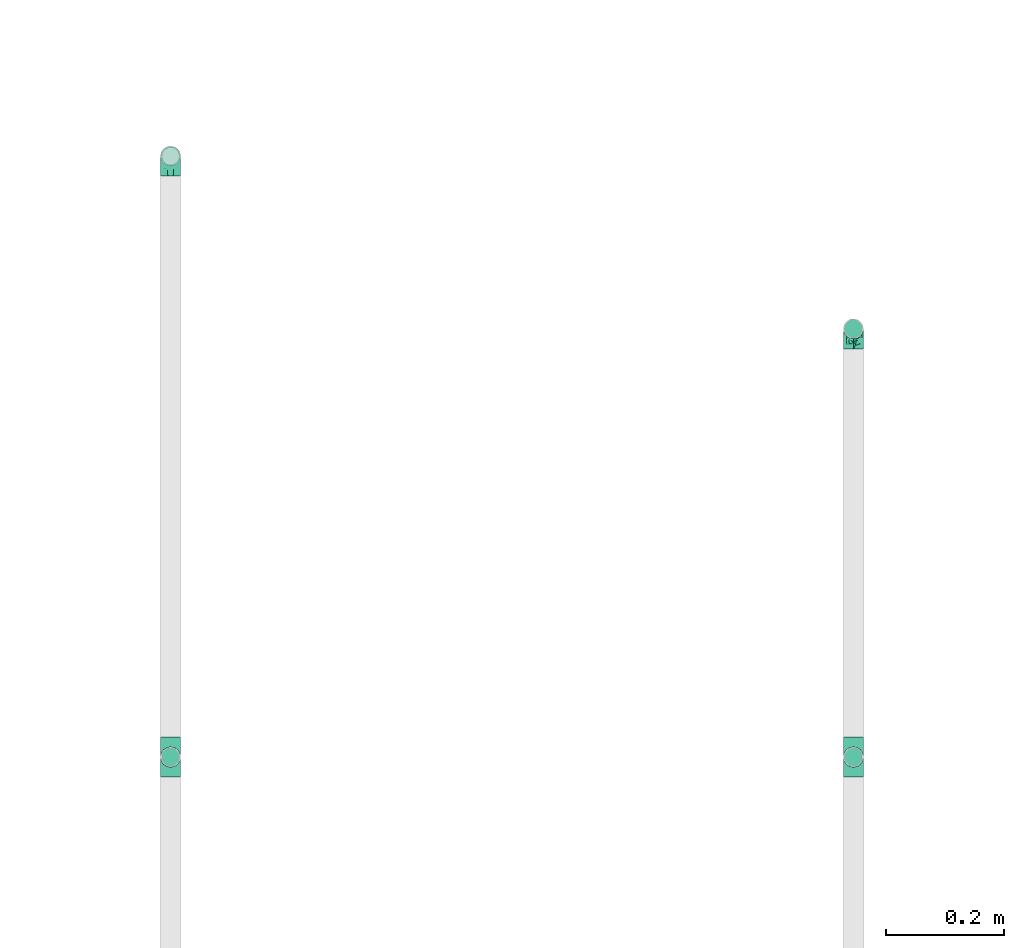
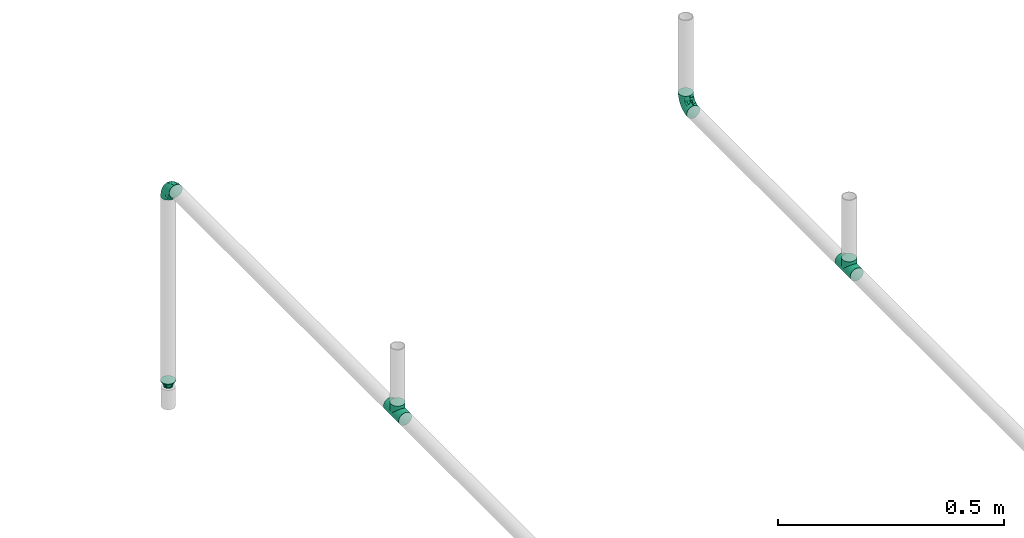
# One storey, part 53 of 95: 5 flow fittings.
"""IFC2X3 building model written with IfcOpenShell, lengths in millimetres."""

from ifc_helpers import new_model, entity, si_unit, converted_unit, derived_unit, direction, frame, origin_with_axes, place, context, subcontext, project, spatial, open_shell, surface_model, source, transform, mapped, type_object, element, save


model = new_model("IFC2X3")

# Units and contexts
model_context = context("Model", 3, precision=0.01, world=frame((0.0, 4.29681676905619e-09, 0.0)), true_north=direction((4.01073788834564e-13, 1.0)))
plan_context = context("Plan", 3, precision=0.01, world=frame((0.0, 4.29681676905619e-09, 0.0)), true_north=direction((4.01073788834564e-13, 1.0)))
body_context = subcontext(model_context, "Body", "Model", "MODEL_VIEW")
ifc_project = project(units=[converted_unit("PLANEANGLEUNIT", "DEGREE", entity("IfcPositiveLengthMeasure", 0.0174532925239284), si_unit("PLANEANGLEUNIT", "RADIAN"), dimensions=[0, 0, 0, 0, 0, 0, 0]), si_unit("AREAUNIT", "SQUARE_METRE"), si_unit("LENGTHUNIT", "METRE", prefix="MILLI"), si_unit("MASSUNIT", "GRAM", prefix="KILO"), si_unit("POWERUNIT", "WATT"), si_unit("PRESSUREUNIT", "PASCAL"), si_unit("FORCEUNIT", "NEWTON", prefix="KILO"), si_unit("ELECTRICVOLTAGEUNIT", "VOLT"), si_unit("ELECTRICCURRENTUNIT", "AMPERE"), si_unit("THERMODYNAMICTEMPERATUREUNIT", "DEGREE_CELSIUS"), si_unit("TIMEUNIT", "SECOND"), si_unit("VOLUMEUNIT", "CUBIC_METRE"), derived_unit("LINEARVELOCITYUNIT", [(si_unit("LENGTHUNIT", "METRE"), 1), (si_unit("TIMEUNIT", "SECOND"), -1)]), derived_unit("VOLUMETRICFLOWRATEUNIT", [(si_unit("VOLUMEUNIT", "CUBIC_METRE"), 1), (si_unit("TIMEUNIT", "SECOND"), -1)]), derived_unit("THERMALTRANSMITTANCEUNIT", [(si_unit("POWERUNIT", "WATT"), 1), (si_unit("THERMODYNAMICTEMPERATUREUNIT", "KELVIN"), -1), (si_unit("AREAUNIT", "SQUARE_METRE"), -1)]), derived_unit("SOUNDPRESSUREUNIT", [(si_unit("PRESSUREUNIT", "PASCAL"), 1)])], contexts=[model_context, plan_context])

# Site, building, storey
site_placement = place(None, frame((0.0, -4.29681676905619e-09, 0.0), z_axis=(0.0, 0.0, 1.0), x_axis=(1.0, 0.0, 0.0)))
site = spatial("IfcSite", under=ifc_project, at=site_placement, CompositionType="ELEMENT")
building_placement = place(site_placement, frame((0.0, 4.29681676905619e-09, 0.0), z_axis=(0.0, 0.0, 1.0), x_axis=(1.0, 0.0, 0.0)))
building = spatial("IfcBuilding", under=site, at=building_placement, Name="mc-building", CompositionType="ELEMENT")
storey_placement = place(building_placement, frame((0.0, 0.0, 210900.0), z_axis=(0.0, 0.0, 1.0), x_axis=(1.0, 0.0, 0.0)))
storey = spatial("IfcBuildingStorey", under=building, at=storey_placement, Name="Nivå F", CompositionType="ELEMENT", Elevation=210900.0)

# Flow fittings
pipe_fitting_type_1 = type_object("IfcPipeFittingType", Name="magi_pipe_fe_reducer_centric_short_NOR", PredefinedType="TRANSITION")
shared_shape_1 = source(origin_with_axes(), body_context, "Body", "SurfaceModel", [
    surface_model("IfcShellBasedSurfaceModel", [(-2.0, -7.56604, -7.56604), (-2.0, -10.33541, -2.76936), (-2.0, -5.35, -9.26647), (-2.0, 5.35, -9.26647), (-2.0, 10.33541, -2.76936), (-2.0, 7.56604, -7.56604), (12.4, 11.9501, 11.9501), (12.4, 0.0, 16.9), (12.4, 11.9501, -11.9501), (12.4, 16.9, 0.0), (0.0, -10.7, 0.0), (0.0, -5.35, 9.26647), (0.0, -5.35, -9.26647), (0.0, 10.7, 0.0), (12.4, 15.66253, -2.98753), (12.4, 8.96258, -13.18758), (0.0, 6.6875, -6.94985), (12.4, -15.66253, -2.98753), (12.4, -16.9, 0.0), (12.4, 5.97505, -14.42505), (0.0, 5.35, -9.26647), (12.4, 14.42505, -5.97505), (0.0, 8.025, -4.63324), (0.0, 9.3625, -2.31662), (0.0, -9.3625, -2.31662), (0.0, -8.025, -4.63324), (12.4, -14.42505, -5.97505), (12.4, 13.18758, -8.96258), (12.4, -13.18758, -8.96258), (12.4, -11.9501, -11.9501), (0.0, -6.6875, -6.94985), (12.4, -8.96258, -13.18758), (12.4, -5.97505, -14.42505), (12.4, -15.66253, 2.98753), (12.4, -8.96258, 13.18758), (0.0, -6.6875, 6.94985), (12.4, -11.9501, 11.9501), (12.4, 15.66253, 2.98753), (12.4, -5.97505, 14.42505), (12.4, -14.42505, 5.97505), (0.0, -8.025, 4.63324), (0.0, -9.3625, 2.31662), (0.0, 9.3625, 2.31662), (0.0, 8.025, 4.63324), (12.4, 14.42505, 5.97505), (12.4, -13.18758, 8.96258), (12.4, 13.18758, 8.96258), (0.0, 6.6875, 6.94985), (12.4, 8.96258, 13.18758), (0.0, 5.35, 9.26647), (12.4, 5.97505, 14.42505), (14.4, 4.37404, -16.32415), (14.4, 8.45, -14.63583), (14.4, 11.9501, -11.9501), (14.4, -8.45, -14.63583), (14.4, 16.32415, -4.37404), (14.4, 16.32415, 4.37404), (14.4, 14.63583, -8.45), (14.4, 0.0, -16.9), (14.4, -4.37404, -16.32415), (14.4, -11.9501, -11.9501), (14.4, -16.32415, -4.37404), (14.4, -14.63583, -8.45), (14.4, -16.32415, 4.37404), (14.4, 16.9, 0.0), (14.4, 14.63583, 8.45), (14.4, 11.9501, 11.9501), (14.4, 4.37404, 16.32415), (14.4, 8.45, 14.63583), (14.4, 0.0, 16.9), (14.4, -14.63583, 8.45), (14.4, -16.9, 0.0), (14.4, -8.45, 14.63583), (14.4, -11.9501, 11.9501), (14.4, -4.37404, 16.32415), (12.4, 4.37404, 16.32415), (12.4, -14.63583, 8.45), (12.4, 16.32415, 4.37404), (12.4, 8.45, 14.63583), (12.4, 14.63583, 8.45), (12.4, -8.45, 14.63583), (12.4, -4.37404, 16.32415), (12.4, -16.32415, 4.37404), (12.4, -16.32415, -4.37404), (12.4, -8.45, -14.63583), (12.4, 16.32415, -4.37404), (12.4, 14.63583, -8.45), (12.4, 8.45, -14.63583), (12.4, 4.37404, -16.32415), (12.4, 0.0, -16.9), (12.4, -14.63583, -8.45), (12.4, -4.37404, -16.32415), (-2.0, 2.76936, 10.33541), (-2.0, 0.0, 10.7), (-2.0, 5.35, 9.26647), (-2.0, 7.56604, 7.56604), (-2.0, 9.26647, 5.35), (-2.0, 10.33541, 2.76936), (-2.0, -10.33541, 2.76936), (-2.0, -2.76936, 10.33541), (-2.0, -7.56604, 7.56604), (-2.0, -5.35, 9.26647), (-2.0, -9.26647, 5.35), (-2.0, -10.7, 0.0), (-2.0, 9.26647, -5.35), (-2.0, 2.76936, -10.33541), (-2.0, -9.26647, -5.35), (-2.0, 0.0, -10.7), (-2.0, -2.76936, -10.33541), (-2.0, 10.7, 0.0), (0.0, 0.0, -10.7), (0.0, 2.76936, -10.33541), (0.0, 10.33541, -2.76936), (0.0, 7.56604, -7.56604), (0.0, -10.33541, -2.76936), (0.0, 9.26647, -5.35), (0.0, 0.0, 10.7), (0.0, -2.76936, -10.33541), (0.0, -7.56604, -7.56604), (0.0, -9.26647, -5.35), (0.0, 10.33541, 2.76936), (0.0, 9.26647, 5.35), (0.0, 7.56604, 7.56604), (0.0, 2.76936, 10.33541), (0.0, -7.56604, 7.56604), (0.0, -10.33541, 2.76936), (0.0, -9.26647, 5.35), (0.0, -2.76936, 10.33541), (0.0, 2.675, -9.26647), (0.0, -2.675, -9.26647), (12.4, 2.98753, -15.66253), (0.0, 0.0, -9.26647), (12.4, -2.98753, -15.66253), (0.0, -2.675, 9.26647), (0.0, 2.675, 9.26647), (12.4, -2.98753, 15.66253), (0.0, 0.0, 9.26647), (12.4, 2.98753, 15.66253)], [open_shell([[[0, 1, 2]], [[3, 4, 5]], [[6, 7, 8]], [[8, 9, 6]], [[10, 11, 12]], [[13, 9, 14]], [[15, 16, 8]], [[17, 18, 10]], [[15, 19, 20]], [[21, 22, 23]], [[24, 25, 26]], [[22, 21, 27]], [[28, 26, 25]], [[29, 30, 31]], [[12, 32, 31]], [[10, 18, 33]], [[34, 35, 36]], [[37, 9, 13]], [[34, 38, 11]], [[39, 40, 41]], [[42, 43, 44]], [[40, 39, 45]], [[46, 44, 43]], [[6, 47, 48]], [[49, 50, 48]], [[51, 52, 53]], [[54, 51, 53]], [[53, 55, 56]], [[55, 53, 57]], [[53, 56, 54]], [[58, 54, 59]], [[58, 51, 54]], [[60, 61, 62]], [[61, 60, 54]], [[54, 63, 61]], [[56, 55, 64]], [[56, 65, 66]], [[56, 66, 67]], [[67, 63, 54]], [[67, 66, 68]], [[63, 67, 69]], [[69, 70, 63]], [[71, 61, 63]], [[70, 72, 73]], [[70, 69, 72]], [[72, 69, 74]], [[54, 56, 67]], [[75, 76, 7]], [[77, 75, 78]], [[6, 79, 77]], [[6, 77, 78]], [[76, 75, 77]], [[80, 76, 36]], [[80, 81, 7]], [[7, 76, 80]], [[82, 76, 77]], [[82, 83, 18]], [[82, 77, 84]], [[77, 85, 8]], [[8, 85, 86]], [[8, 87, 88]], [[84, 77, 8]], [[88, 89, 8]], [[83, 29, 90]], [[29, 83, 84]], [[84, 89, 91]], [[83, 82, 84]], [[8, 89, 84]], [[85, 77, 9]], [[83, 61, 18]], [[90, 62, 83]], [[54, 29, 84]], [[90, 29, 60]], [[59, 84, 91]], [[83, 62, 61]], [[61, 71, 18]], [[59, 54, 84]], [[60, 29, 54]], [[60, 62, 90]], [[58, 59, 91]], [[91, 89, 58]], [[88, 51, 89]], [[87, 52, 88]], [[57, 8, 86]], [[87, 8, 53]], [[55, 86, 85]], [[87, 53, 52]], [[52, 51, 88]], [[64, 55, 85]], [[57, 86, 55]], [[57, 53, 8]], [[9, 64, 85]], [[89, 51, 58]], [[77, 56, 9]], [[79, 65, 77]], [[68, 6, 78]], [[79, 6, 66]], [[67, 78, 75]], [[77, 65, 56]], [[56, 64, 9]], [[67, 68, 78]], [[66, 6, 68]], [[66, 65, 79]], [[69, 67, 75]], [[75, 7, 69]], [[81, 74, 7]], [[80, 72, 81]], [[70, 36, 76]], [[80, 36, 73]], [[63, 76, 82]], [[80, 73, 72]], [[72, 74, 81]], [[71, 63, 82]], [[70, 76, 63]], [[70, 73, 36]], [[18, 71, 82]], [[7, 74, 69]], [[92, 1, 93]], [[94, 1, 92]], [[95, 96, 97]], [[95, 97, 94]], [[98, 93, 1]], [[99, 100, 101]], [[99, 93, 100]], [[100, 98, 102]], [[93, 98, 100]], [[98, 1, 103]], [[94, 97, 1]], [[1, 97, 4]], [[5, 4, 104]], [[4, 3, 1]], [[105, 1, 3]], [[1, 0, 106]], [[2, 107, 108]], [[2, 1, 105]], [[105, 107, 2]], [[4, 97, 109]], [[20, 110, 111]], [[112, 20, 113]], [[114, 20, 112]], [[112, 113, 115]], [[116, 114, 112]], [[110, 12, 117]], [[110, 20, 12]], [[118, 114, 119]], [[114, 118, 12]], [[20, 114, 12]], [[112, 13, 120]], [[120, 121, 122]], [[120, 122, 123]], [[116, 112, 123]], [[123, 122, 49]], [[116, 124, 114]], [[125, 124, 126]], [[10, 114, 125]], [[124, 127, 11]], [[125, 114, 124]], [[127, 124, 116]], [[123, 112, 120]], [[1, 114, 103]], [[106, 119, 1]], [[12, 0, 2]], [[106, 0, 118]], [[117, 2, 108]], [[1, 119, 114]], [[114, 10, 103]], [[117, 12, 2]], [[118, 0, 12]], [[118, 119, 106]], [[110, 117, 108]], [[108, 107, 110]], [[105, 111, 107]], [[3, 20, 105]], [[115, 5, 104]], [[3, 5, 113]], [[112, 104, 4]], [[3, 113, 20]], [[20, 111, 105]], [[13, 112, 4]], [[115, 104, 112]], [[115, 113, 5]], [[109, 13, 4]], [[107, 111, 110]], [[97, 120, 109]], [[96, 121, 97]], [[49, 95, 94]], [[96, 95, 122]], [[123, 94, 92]], [[97, 121, 120]], [[120, 13, 109]], [[123, 49, 94]], [[122, 95, 49]], [[122, 121, 96]], [[116, 123, 92]], [[92, 93, 116]], [[99, 127, 93]], [[101, 11, 99]], [[126, 100, 102]], [[101, 100, 124]], [[125, 102, 98]], [[101, 124, 11]], [[11, 127, 99]], [[10, 125, 98]], [[126, 102, 125]], [[126, 124, 100]], [[103, 10, 98]], [[93, 127, 116]], [[18, 7, 36]], [[18, 29, 8]], [[89, 8, 29]], [[18, 8, 7]], [[13, 11, 49]], [[13, 20, 12]], [[13, 12, 11]], [[24, 26, 17]], [[10, 24, 17]], [[16, 15, 20]], [[30, 12, 31]], [[23, 14, 21]], [[19, 128, 20]], [[27, 8, 16]], [[32, 12, 129]], [[30, 28, 25]], [[130, 131, 128]], [[129, 132, 32]], [[16, 22, 27]], [[13, 14, 23]], [[128, 19, 130]], [[130, 89, 131]], [[131, 132, 129]], [[89, 132, 131]], [[28, 30, 29]], [[42, 44, 37]], [[13, 42, 37]], [[35, 34, 11]], [[47, 49, 48]], [[41, 33, 39]], [[38, 133, 11]], [[45, 36, 35]], [[50, 49, 134]], [[47, 46, 43]], [[135, 136, 133]], [[134, 137, 50]], [[35, 40, 45]], [[10, 33, 41]], [[133, 38, 135]], [[135, 7, 136]], [[136, 137, 134]], [[7, 137, 136]], [[46, 47, 6]]])]),
])
flow_fitting_placement = place(storey_placement, frame((529898.68266, 447207.85, 3762.948), z_axis=(-1.0, 0.0, 0.0), x_axis=(0.0, 0.0, 1.0)))
element("IfcFlowFitting", 1, at=flow_fitting_placement, inside=storey, type_object=pipe_fitting_type_1, Name="magi_pipe_fe_reducer_centric_short_NOR", context=body_context, shape_type="MappedRepresentation", body=[
    mapped(shared_shape_1, transform((0.0, 0.0, 0.0), scale=1.0)),
])
pipe_fitting_type_2 = type_object("IfcPipeFittingType", Name="magi_pipe_fe_elbow_short_001", PredefinedType="BEND")
shared_shape_2 = source(origin_with_axes(), body_context, "Body", "SurfaceModel", [
    surface_model("IfcShellBasedSurfaceModel", [(-33.8, 8.45, -14.63583), (-33.8, 4.37404, -16.32415), (-33.8, 11.9501, -11.9501), (-33.8, -11.9501, -11.9501), (-33.8, -14.63583, -8.45), (-33.8, -8.45, -14.63583), (-33.8, 0.0, -16.9), (-33.8, -4.37404, -16.32415), (-33.8, -4.37404, 16.32415), (-33.8, 0.0, 16.9), (-33.8, -8.45, 14.63583), (-33.8, 16.32415, -4.37404), (-33.8, 14.63583, -8.45), (-33.8, -16.32415, -4.37404), (-33.8, -16.9, 0.0), (-33.8, -16.32415, 4.37404), (-33.8, 11.9501, 11.9501), (-33.8, 14.63583, 8.45), (-33.8, 16.32415, 4.37404), (-33.8, 4.37404, 16.32415), (-33.8, 8.45, 14.63583), (-33.8, -14.63583, 8.45), (-33.8, -11.9501, 11.9501), (-33.8, 16.9, 0.0), (-11.9501, 33.8, -11.9501), (0.0, 33.8, -16.9), (-4.37404, 33.8, -16.32415), (-8.45, 33.8, -14.63583), (-14.63583, 33.8, -8.45), (-16.32415, 33.8, -4.37404), (14.63583, 33.8, -8.45), (8.45, 33.8, 14.63583), (16.32415, 33.8, -4.37404), (8.45, 33.8, -14.63583), (11.9501, 33.8, -11.9501), (4.37404, 33.8, -16.32415), (16.32415, 33.8, 4.37404), (16.9, 33.8, 0.0), (-11.9501, 33.8, 11.9501), (-16.32415, 33.8, 4.37404), (-14.63583, 33.8, 8.45), (-8.45, 33.8, 14.63583), (-4.37404, 33.8, 16.32415), (11.9501, 33.8, 11.9501), (14.63583, 33.8, 8.45), (0.0, 33.8, 16.9), (4.37404, 33.8, 16.32415), (-16.9, 33.8, 0.0), (-24.79389, -13.12945, 9.48721), (-22.19287, -9.75018, 12.59315), (-24.09897, -14.97035, 0.0), (-14.93934, -10.76256, 8.5297), (-22.46095, -14.75051, 5.27077), (14.75051, 22.46094, 5.27077), (11.9251, 13.23888, 4.33236), (13.04069, 14.39795, 0.0), (7.71387, 13.68847, 11.55891), (9.75018, 22.19287, 12.59315), (4.10169, 13.0571, 14.04018), (-24.84007, -6.39063, 15.2048), (-25.81779, -2.23879, 16.61097), (-23.66549, 2.59054, 16.87119), (-26.50418, 14.06512, 11.08152), (-24.21253, 17.66365, 7.72657), (-29.58514, 15.86957, 7.00283), (-6.17382, -7.5455, 0.0), (-13.23888, -11.9251, 4.33236), (-14.39795, -13.04069, 0.0), (-17.81434, 18.87373, 11.97104), (-6.30846, 29.15138, 15.82987), (-2.31622, 25.28002, 16.85849), (-29.23923, 10.23435, 13.77053), (-1.45439, -2.85688, 7.61475), (-0.28326, 0.34872, 10.09509), (-5.74484, -4.04709, 10.4122), (-4.41137, 11.31918, 16.59407), (-8.39727, 3.10034, 15.7812), (-1.72649, 9.1306, 15.53089), (-17.39909, 24.75344, 7.64977), (-26.19233, 20.0512, 0.0), (-28.14518, 17.29657, 4.25857), (-26.05147, 6.6281, 15.96447), (-5.87354, 16.61944, 16.86968), (-12.51807, 12.51807, 16.48937), (-10.06312, 7.38516, 16.81295), (-3.01882, 3.01882, 13.81718), (-13.0571, -4.10169, 14.04018), (-16.82553, -0.15166, 16.38038), (10.76256, 14.93934, 8.5297), (13.12945, 24.79389, 9.48721), (6.39063, 24.84007, 15.2048), (2.23879, 25.81779, 16.61097), (-13.68847, -7.71387, 11.55891), (14.97035, 24.09897, 0.0), (-7.30894, 22.89991, 16.09489), (-10.67958, 26.17414, 14.008), (-12.78295, 18.26924, 15.06066), (-13.88562, 22.45231, 12.93244), (-18.04944, 15.16501, 14.04434), (-23.11658, 20.08178, 4.02986), (-21.84989, 21.84989, 0.0), (-18.55817, 25.48277, 3.93065), (-13.95142, 26.94732, 11.03289), (-18.57098, 7.23906, 16.59756), (-16.58335, 4.14122, 16.89279), (-17.96666, 11.46709, 15.63151), (-9.84453, 17.54304, 16.18938), (0.15166, 16.82553, 16.38038), (-23.27207, 11.47201, 14.23154), (3.84842, 5.86994, 10.70473), (-8.0212, -7.54413, 7.93275), (1.00345, -2.19508, 4.57414), (5.13203, 3.01004, 5.90201), (5.24161, 1.7543, 2.53265), (8.70457, 7.04947, 3.99182), (-20.0512, 26.19233, 0.0), (8.4852, 8.76699, 7.09296), (-4.55488, -6.72064, 4.90681), (2.05031, -2.05031, 0.0), (7.5455, 6.17382, 0.0), (-26.75399, 2.1369, -16.845), (-14.61995, 24.73803, -11.27736), (-28.45274, -13.45335, -9.81895), (-26.00469, 6.63555, -15.96645), (-23.06726, 20.04573, -4.26202), (-13.80647, -4.26506, -14.17873), (-14.67501, -0.21081, -16.07388), (-6.7902, -0.2828, -13.8478), (-24.53586, 11.08096, -14.13417), (-26.72048, 14.00837, -11.05776), (10.0967, 24.44989, -12.75976), (5.83237, 21.40218, -15.03047), (6.66249, 28.54238, -15.38093), (-20.38182, 15.48705, -12.74596), (12.53268, 21.23441, -9.15363), (12.54494, 15.67504, -5.54878), (9.7522, 12.89279, -8.66343), (-15.65186, 19.64213, -13.01327), (-12.03528, 20.66498, -14.67665), (-15.61907, 15.61906, -14.83879), (-25.56551, -15.26206, 0.0), (-24.65452, -15.12934, -5.50955), (13.45335, 28.45274, -9.81895), (15.12934, 24.65452, -5.50955), (-7.35442, -8.31014, -5.65563), (-15.67504, -12.54494, -5.54878), (-24.44989, -10.0967, -12.75976), (0.16522, 0.41303, -9.71728), (-5.70658, -5.33066, -8.89288), (-5.13869, -2.37198, -11.53565), (-21.23441, -12.53268, -9.15363), (0.71146, 7.93863, -14.09382), (0.21081, 14.67501, -16.07388), (3.49291, 14.42772, -14.76381), (-24.89911, -2.13088, -16.591), (-28.54238, -6.66249, -15.38093), (-18.44386, -7.71663, -13.26957), (2.13088, 24.89911, -16.591), (-28.64342, 17.44413, -2.89318), (1.70017, -1.28722, -5.09504), (-16.57067, 26.81947, -7.36596), (-17.69055, 27.4263, -3.76405), (-12.89279, -9.7522, -8.66343), (-5.96611, 5.96611, -15.95814), (-20.53709, 20.09345, -8.28985), (-2.1369, 26.75399, -16.845), (-6.89872, 24.58781, -16.02578), (-10.60739, 26.53157, -13.98044), (-21.40218, -5.83237, -15.03047), (2.93192, 5.89627, -11.55917), (6.89393, 12.61842, -11.82233), (5.58056, 5.95325, -8.79455), (-3.99512, 18.61798, -16.89635), (8.31014, 7.35442, -5.65563), (-9.1383, 9.86148, -16.89041), (-9.99983, 16.02119, -16.39699), (-16.68576, 9.78031, -16.34199), (-27.01915, 16.61158, -7.12979), (15.26206, 25.56551, 0.0), (-18.61798, 3.99512, -16.89635), (-19.37495, 27.82495, 0.0), (-12.61842, -6.89393, -11.82233), (-18.84705, 19.14018, -10.96545)], [open_shell([[[0, 1, 2]], [[3, 4, 5]], [[6, 7, 5]], [[8, 9, 10]], [[1, 6, 2]], [[11, 12, 2]], [[4, 2, 6]], [[2, 13, 10]], [[5, 4, 6]], [[2, 4, 13]], [[14, 15, 13]], [[11, 2, 16]], [[11, 17, 18]], [[11, 16, 17]], [[19, 20, 16]], [[16, 2, 10]], [[19, 16, 10]], [[21, 22, 15]], [[22, 13, 15]], [[22, 10, 13]], [[10, 9, 19]], [[11, 18, 23]], [[24, 25, 26]], [[24, 26, 27]], [[24, 28, 29]], [[25, 24, 30]], [[31, 32, 24]], [[33, 30, 34]], [[33, 35, 25]], [[25, 30, 33]], [[32, 30, 24]], [[32, 36, 37]], [[38, 24, 29]], [[39, 40, 29]], [[40, 38, 29]], [[38, 41, 42]], [[38, 31, 24]], [[31, 38, 42]], [[36, 43, 44]], [[36, 32, 43]], [[31, 45, 46]], [[32, 31, 43]], [[42, 45, 31]], [[39, 29, 47]], [[22, 48, 49]], [[15, 14, 50]], [[51, 48, 52]], [[53, 54, 55]], [[48, 22, 21]], [[15, 52, 21]], [[56, 57, 58]], [[49, 10, 22]], [[49, 59, 10]], [[9, 60, 61]], [[62, 63, 64]], [[65, 66, 67]], [[57, 43, 31]], [[62, 68, 63]], [[42, 69, 70]], [[20, 71, 16]], [[8, 60, 9]], [[72, 73, 74]], [[75, 76, 77]], [[16, 62, 17]], [[40, 39, 78]], [[79, 23, 80]], [[64, 18, 17]], [[9, 61, 19]], [[19, 81, 20]], [[82, 83, 84]], [[74, 85, 86]], [[59, 86, 87]], [[88, 89, 57]], [[90, 31, 46]], [[44, 53, 36]], [[46, 45, 91]], [[54, 53, 88]], [[44, 89, 53]], [[92, 86, 49]], [[89, 44, 43]], [[10, 59, 8]], [[53, 55, 93]], [[93, 36, 53]], [[66, 52, 67]], [[94, 82, 70]], [[95, 96, 94]], [[97, 98, 96]], [[79, 99, 100]], [[41, 38, 95]], [[101, 100, 99]], [[68, 78, 63]], [[42, 41, 69]], [[23, 18, 80]], [[95, 94, 69]], [[78, 101, 99]], [[38, 102, 95]], [[70, 45, 42]], [[97, 95, 102]], [[15, 50, 52]], [[90, 57, 31]], [[57, 90, 58]], [[81, 19, 61]], [[103, 104, 84]], [[105, 81, 103]], [[38, 40, 102]], [[106, 96, 83]], [[94, 106, 82]], [[91, 70, 107]], [[71, 62, 16]], [[62, 108, 98]], [[86, 59, 49]], [[67, 52, 50]], [[60, 59, 87]], [[92, 49, 51]], [[86, 85, 76]], [[91, 90, 46]], [[37, 36, 93]], [[107, 77, 58]], [[107, 58, 90]], [[58, 85, 109]], [[110, 74, 92]], [[72, 74, 110]], [[66, 51, 52]], [[72, 111, 112]], [[113, 114, 112]], [[56, 88, 57]], [[52, 48, 21]], [[49, 48, 51]], [[57, 89, 43]], [[53, 89, 88]], [[103, 81, 61]], [[71, 81, 108]], [[18, 64, 80]], [[63, 78, 99]], [[47, 115, 101]], [[101, 115, 100]], [[40, 78, 102]], [[68, 102, 78]], [[97, 96, 95]], [[105, 98, 108]], [[103, 84, 83]], [[107, 70, 82]], [[76, 84, 87]], [[82, 84, 75]], [[70, 91, 45]], [[90, 91, 107]], [[59, 60, 8]], [[61, 60, 87]], [[73, 85, 74]], [[109, 112, 116]], [[103, 61, 104]], [[105, 103, 83]], [[96, 105, 83]], [[81, 105, 108]], [[96, 98, 105]], [[62, 98, 68]], [[61, 87, 104]], [[87, 84, 104]], [[86, 76, 87]], [[77, 76, 85]], [[58, 77, 85]], [[75, 77, 107]], [[82, 75, 107]], [[76, 75, 84]], [[81, 71, 20]], [[62, 71, 108]], [[95, 69, 41]], [[70, 69, 94]], [[62, 64, 17]], [[80, 63, 99]], [[63, 80, 64]], [[80, 99, 79]], [[66, 65, 117]], [[110, 66, 117]], [[112, 114, 116]], [[118, 117, 65]], [[110, 92, 51]], [[112, 111, 113]], [[119, 55, 54]], [[74, 86, 92]], [[58, 109, 56]], [[116, 56, 109]], [[66, 110, 51]], [[72, 110, 117]], [[111, 72, 117]], [[73, 112, 109]], [[117, 118, 111]], [[113, 111, 118]], [[118, 119, 113]], [[114, 119, 54]], [[119, 114, 113]], [[116, 54, 88]], [[54, 116, 114]], [[116, 88, 56]], [[112, 73, 72]], [[85, 73, 109]], [[78, 39, 101]], [[47, 101, 39]], [[102, 68, 97]], [[97, 68, 98]], [[82, 106, 83]], [[94, 96, 106]], [[1, 120, 6]], [[28, 24, 121]], [[3, 122, 4]], [[0, 123, 1]], [[100, 124, 79]], [[125, 126, 127]], [[128, 2, 129]], [[130, 131, 132]], [[128, 129, 133]], [[134, 135, 136]], [[137, 138, 139]], [[128, 0, 2]], [[67, 140, 141]], [[134, 142, 143]], [[141, 13, 4]], [[144, 65, 145]], [[146, 3, 5]], [[147, 148, 149]], [[145, 141, 150]], [[151, 152, 153]], [[154, 7, 6]], [[5, 155, 146]], [[150, 146, 156]], [[155, 5, 7]], [[143, 135, 134]], [[35, 157, 25]], [[23, 79, 158]], [[148, 159, 144]], [[160, 161, 29]], [[145, 162, 144]], [[163, 152, 151]], [[29, 28, 160]], [[121, 164, 160]], [[33, 34, 130]], [[25, 165, 26]], [[26, 165, 166]], [[142, 34, 30]], [[24, 27, 167]], [[124, 161, 164]], [[157, 35, 132]], [[155, 154, 168]], [[123, 0, 128]], [[169, 170, 171]], [[172, 157, 152]], [[26, 166, 27]], [[132, 35, 33]], [[142, 130, 34]], [[168, 154, 126]], [[136, 135, 173]], [[133, 137, 139]], [[2, 12, 129]], [[170, 131, 130]], [[30, 32, 143]], [[172, 174, 175]], [[176, 123, 128]], [[158, 177, 11]], [[135, 55, 119]], [[167, 27, 166]], [[175, 166, 172]], [[137, 167, 138]], [[122, 141, 4]], [[140, 14, 13]], [[32, 37, 178]], [[170, 130, 134]], [[152, 157, 131]], [[165, 157, 172]], [[153, 170, 151]], [[152, 163, 174]], [[168, 125, 156]], [[122, 146, 150]], [[120, 154, 6]], [[179, 174, 126]], [[179, 126, 154]], [[126, 163, 127]], [[162, 145, 150]], [[140, 13, 141]], [[32, 178, 143]], [[55, 143, 178]], [[177, 129, 12]], [[128, 133, 139]], [[176, 128, 139]], [[120, 123, 179]], [[121, 160, 28]], [[161, 100, 180]], [[166, 175, 138]], [[121, 24, 167]], [[161, 47, 29]], [[79, 124, 158]], [[124, 164, 177]], [[161, 124, 100]], [[136, 171, 170]], [[127, 163, 151]], [[147, 171, 159]], [[148, 144, 162]], [[127, 151, 169]], [[127, 181, 125]], [[129, 177, 164]], [[12, 11, 177]], [[159, 65, 144]], [[67, 141, 145]], [[143, 55, 135]], [[135, 119, 173]], [[123, 120, 1]], [[154, 120, 179]], [[157, 165, 25]], [[166, 165, 172]], [[172, 152, 174]], [[176, 139, 175]], [[126, 174, 163]], [[176, 174, 179]], [[174, 176, 175]], [[123, 176, 179]], [[150, 181, 162]], [[127, 149, 181]], [[181, 148, 162]], [[159, 148, 147]], [[171, 136, 173]], [[170, 134, 136]], [[159, 171, 173]], [[171, 147, 169]], [[169, 147, 149]], [[151, 170, 169]], [[164, 182, 129]], [[182, 121, 137]], [[181, 149, 148]], [[169, 149, 127]], [[182, 137, 133]], [[167, 137, 121]], [[166, 138, 167]], [[175, 139, 138]], [[129, 182, 133]], [[121, 182, 164]], [[161, 160, 164]], [[47, 161, 180]], [[177, 158, 124]], [[23, 158, 11]], [[130, 132, 33]], [[157, 132, 131]], [[143, 142, 30]], [[130, 142, 134]], [[154, 155, 7]], [[146, 155, 168]], [[146, 122, 3]], [[141, 122, 150]], [[152, 131, 153]], [[159, 119, 118]], [[67, 145, 65]], [[170, 153, 131]], [[119, 159, 173]], [[159, 118, 65]], [[156, 125, 181]], [[126, 125, 168]], [[150, 156, 181]], [[168, 156, 146]]])]),
])
for number, where, z_axis, x_axis, name in (
    (2, (531053.43639, 446915.88295, 4294.38553), (-1.0, 0.0, 0.0), (0.0, 0.0, -1.0), "magi_pipe_fe_elbow_short_001"),
    (3, (529898.68266, 447207.85, 4308.26618000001), (1.0, 0.0, 0.0), (0.0, 0.0, 1.0), "magi_pipe_fe_elbow_short_001"),
):
    element("IfcFlowFitting", number, at=place(storey_placement, frame(where, z_axis=z_axis, x_axis=x_axis)), inside=storey, type_object=pipe_fitting_type_2, Name=name, context=body_context, shape_type="MappedRepresentation", body=[
        mapped(shared_shape_2, transform((0.0, 0.0, 0.0), scale=1.0)),
    ])
pipe_fitting_type_3 = type_object("IfcPipeFittingType", Name="magi_pipe_fe_tee_centric_90_NOR", PredefinedType="JUNCTION")
shared_shape_3 = source(origin_with_axes(), body_context, "Body", "SurfaceModel", [
    surface_model("IfcShellBasedSurfaceModel", [(-33.8, 4.37404, -16.32415), (-33.8, 0.0, -16.9), (-33.8, 16.32415, -4.37404), (-33.8, 8.45, -14.63583), (-33.8, 11.9501, -11.9501), (-33.8, 14.63583, -8.45), (-33.8, -16.9, 0.0), (-33.8, -11.9501, -11.9501), (-33.8, -14.63583, -8.45), (-33.8, -8.45, -14.63583), (-33.8, -4.37404, -16.32415), (-33.8, -16.32415, -4.37404), (-33.8, 14.63583, 8.45), (-33.8, 16.32415, 4.37404), (-33.8, -8.45, 14.63583), (-33.8, 8.45, 14.63583), (-33.8, 11.9501, 11.9501), (-33.8, 4.37404, 16.32415), (-33.8, 0.0, 16.9), (-33.8, -11.9501, 11.9501), (-33.8, -14.63583, 8.45), (-33.8, -16.32415, 4.37404), (-33.8, -4.37404, 16.32415), (-33.8, 16.9, 0.0), (33.8, 4.37404, -16.32415), (33.8, -16.9, 0.0), (33.8, 0.0, -16.9), (33.8, 14.63583, -8.45), (33.8, 8.45, -14.63583), (33.8, 16.32415, -4.37404), (33.8, 11.9501, -11.9501), (33.8, -16.32415, 4.37404), (33.8, -8.45, -14.63583), (33.8, -4.37404, -16.32415), (33.8, -11.9501, -11.9501), (33.8, -14.63583, -8.45), (33.8, -16.32415, -4.37404), (33.8, 16.32415, 4.37404), (33.8, 8.45, 14.63583), (33.8, 14.63583, 8.45), (33.8, 11.9501, 11.9501), (33.8, -8.45, 14.63583), (33.8, 4.37404, 16.32415), (33.8, -14.63583, 8.45), (33.8, -11.9501, 11.9501), (33.8, 0.0, 16.9), (33.8, -4.37404, 16.32415), (33.8, 16.9, 0.0), (16.28698, -16.28698, 4.51047), (16.9, -16.9, 0.0), (14.62704, -14.62704, 8.4652), (9.47213, -9.47213, 13.99602), (12.26343, -12.26343, 11.62834), (-16.9, -16.9, 0.0), (-16.28698, -16.28698, 4.51047), (-14.62704, -14.62704, 8.4652), (-12.26343, -12.26343, 11.62834), (-9.47213, -9.47213, 13.99602), (-6.42894, -6.42894, 15.62942), (6.42894, -6.42894, 15.62942), (3.24522, -3.24522, 16.58549), (0.0, 0.0, 16.9), (-3.24522, -3.24522, 16.58549), (3.24522, -3.24522, -16.58549), (0.0, 0.0, -16.9), (-3.24522, -3.24522, -16.58549), (-6.42894, -6.42894, -15.62942), (6.42894, -6.42894, -15.62942), (9.47213, -9.47213, -13.99602), (12.26343, -12.26343, -11.62834), (14.62704, -14.62704, -8.4652), (16.28698, -16.28698, -4.51047), (-9.47213, -9.47213, -13.99602), (-12.26343, -12.26343, -11.62834), (-16.28698, -16.28698, -4.51047), (-14.62704, -14.62704, -8.4652), (4.37404, -25.35, -16.32415), (-16.9, -25.35, 0.0), (0.0, -25.35, -16.9), (14.63583, -25.35, -8.45), (8.45, -25.35, -14.63583), (16.32415, -25.35, -4.37404), (11.9501, -25.35, -11.9501), (-11.9501, -25.35, -11.9501), (-8.45, -25.35, -14.63583), (-4.37404, -25.35, -16.32415), (-14.63583, -25.35, -8.45), (-16.32415, -25.35, -4.37404), (16.9, -25.35, 0.0), (8.45, -25.35, 14.63583), (16.32415, -25.35, 4.37404), (14.63583, -25.35, 8.45), (-8.45, -25.35, 14.63583), (11.9501, -25.35, 11.9501), (4.37404, -25.35, 16.32415), (-16.32415, -25.35, 4.37404), (-11.9501, -25.35, 11.9501), (-14.63583, -25.35, 8.45), (0.0, -25.35, 16.9), (-4.37404, -25.35, 16.32415)], [open_shell([[[0, 1, 2]], [[3, 0, 4]], [[0, 2, 5]], [[4, 0, 5]], [[6, 2, 1]], [[7, 8, 9]], [[1, 10, 9]], [[11, 6, 8]], [[1, 9, 8]], [[1, 8, 6]], [[6, 12, 2]], [[12, 13, 2]], [[14, 12, 6]], [[12, 14, 15]], [[16, 12, 15]], [[17, 15, 18]], [[19, 14, 20]], [[21, 20, 14]], [[22, 18, 14]], [[14, 6, 21]], [[14, 18, 15]], [[23, 2, 13]], [[24, 25, 26]], [[27, 24, 28]], [[27, 29, 24]], [[27, 28, 30]], [[31, 25, 24]], [[26, 32, 33]], [[26, 34, 32]], [[35, 25, 36]], [[35, 34, 26]], [[25, 35, 26]], [[24, 29, 31]], [[29, 37, 38]], [[38, 37, 39]], [[38, 31, 29]], [[38, 39, 40]], [[41, 38, 42]], [[43, 41, 44]], [[41, 43, 31]], [[41, 45, 46]], [[41, 31, 38]], [[42, 45, 41]], [[29, 47, 37]], [[31, 43, 48]], [[25, 31, 49]], [[49, 31, 48]], [[43, 50, 48]], [[44, 41, 51]], [[50, 43, 52]], [[51, 52, 44]], [[52, 43, 44]], [[53, 54, 21]], [[53, 21, 6]], [[21, 54, 20]], [[54, 55, 20]], [[56, 57, 19]], [[19, 20, 56]], [[19, 57, 14]], [[56, 20, 55]], [[14, 57, 58]], [[51, 41, 59]], [[60, 45, 61]], [[59, 46, 60]], [[46, 59, 41]], [[60, 46, 45]], [[61, 45, 42]], [[39, 37, 13]], [[16, 38, 40]], [[12, 40, 39]], [[42, 38, 15]], [[23, 37, 47]], [[62, 61, 18]], [[62, 22, 58]], [[22, 62, 18]], [[58, 22, 14]], [[61, 17, 18]], [[42, 17, 61]], [[15, 17, 42]], [[15, 38, 16]], [[12, 16, 40]], [[13, 12, 39]], [[37, 23, 13]], [[5, 27, 30]], [[23, 47, 29]], [[30, 28, 3]], [[27, 2, 29]], [[26, 33, 63]], [[26, 64, 24]], [[64, 26, 63]], [[28, 24, 0]], [[64, 0, 24]], [[4, 30, 3]], [[2, 27, 5]], [[5, 30, 4]], [[2, 23, 29]], [[65, 66, 10]], [[1, 0, 64]], [[1, 65, 10]], [[66, 9, 10]], [[0, 3, 28]], [[1, 64, 65]], [[63, 33, 67]], [[32, 34, 68]], [[69, 68, 34]], [[35, 70, 69]], [[69, 34, 35]], [[32, 68, 67]], [[36, 25, 49]], [[36, 71, 35]], [[71, 36, 49]], [[35, 71, 70]], [[72, 9, 66]], [[72, 7, 9]], [[7, 72, 73]], [[7, 73, 8]], [[74, 53, 11]], [[75, 74, 8]], [[74, 11, 8]], [[11, 53, 6]], [[75, 8, 73]], [[32, 67, 33]], [[76, 77, 78]], [[79, 76, 80]], [[79, 81, 76]], [[79, 80, 82]], [[77, 76, 81]], [[78, 83, 84]], [[84, 85, 78]], [[86, 77, 87]], [[83, 78, 86]], [[77, 86, 78]], [[81, 88, 77]], [[89, 88, 90]], [[89, 90, 91]], [[92, 77, 89]], [[89, 91, 93]], [[92, 89, 94]], [[95, 96, 97]], [[96, 95, 92]], [[92, 98, 99]], [[95, 77, 92]], [[94, 98, 92]], [[89, 77, 88]], [[77, 95, 53]], [[54, 53, 95]], [[97, 96, 56]], [[96, 92, 57]], [[95, 97, 54]], [[58, 92, 99]], [[55, 54, 97]], [[56, 55, 97]], [[58, 57, 92]], [[98, 61, 62]], [[58, 99, 62]], [[56, 96, 57]], [[62, 99, 98]], [[94, 60, 98]], [[89, 59, 94]], [[91, 90, 48]], [[52, 93, 91]], [[93, 51, 89]], [[49, 90, 88]], [[59, 60, 94]], [[51, 59, 89]], [[49, 48, 90]], [[50, 52, 91]], [[48, 50, 91]], [[51, 93, 52]], [[98, 60, 61]], [[88, 81, 49]], [[71, 49, 81]], [[79, 82, 69]], [[82, 80, 68]], [[81, 79, 71]], [[67, 80, 76]], [[70, 71, 79]], [[69, 70, 79]], [[67, 68, 80]], [[78, 64, 63]], [[67, 76, 63]], [[69, 82, 68]], [[63, 76, 78]], [[85, 65, 78]], [[84, 66, 85]], [[86, 87, 74]], [[86, 73, 83]], [[72, 84, 83]], [[53, 87, 77]], [[66, 65, 85]], [[72, 66, 84]], [[53, 74, 87]], [[75, 73, 86]], [[74, 75, 86]], [[72, 83, 73]], [[78, 65, 64]]])]),
])
for number, where, z_axis, x_axis, name in (
    (4, (531053.43639, 446191.7762, 4294.38553), (1.0, 0.0, 0.0), (0.0, -1.0, 0.0), "magi_pipe_fe_tee_centric_90_NOR"),
    (5, (529898.68266, 446191.7762, 4308.26618000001), (1.0, 0.0, 0.0), (0.0, -1.0, 0.0), "magi_pipe_fe_tee_centric_90_NOR"),
):
    element("IfcFlowFitting", number, at=place(storey_placement, frame(where, z_axis=z_axis, x_axis=x_axis)), inside=storey, type_object=pipe_fitting_type_3, Name=name, context=body_context, shape_type="MappedRepresentation", body=[
        mapped(shared_shape_3, transform((0.0, 0.0, 0.0), scale=1.0)),
    ])

save(model, "model.ifc")
